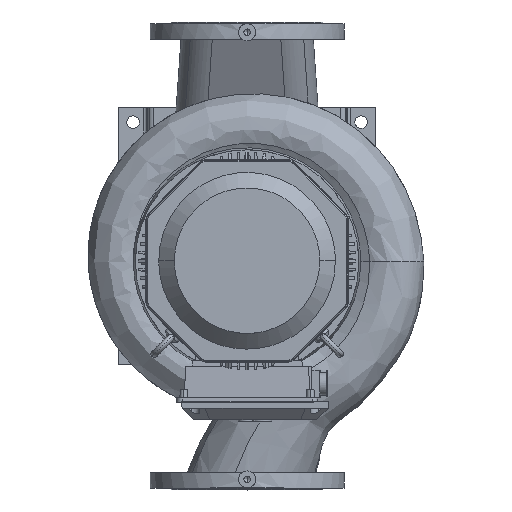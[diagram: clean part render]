
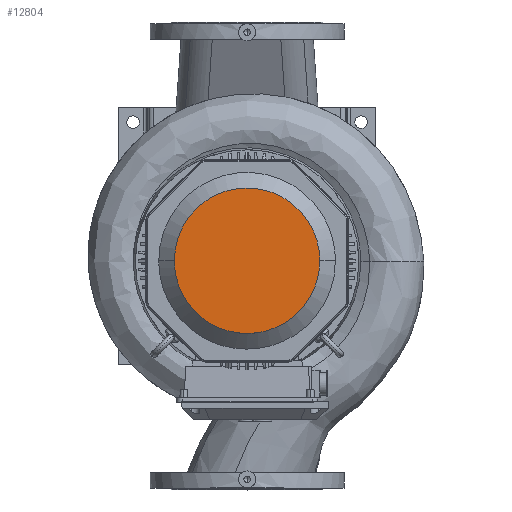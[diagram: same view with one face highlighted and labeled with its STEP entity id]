
A CAD part, top view. The second image highlights one B-rep face of the part: STEP entity #12804.
In plain terms, the highlighted free-form (B-spline) face has degree [1, 1] with [2, 2] control points.
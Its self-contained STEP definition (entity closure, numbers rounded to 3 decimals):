
#12804=ADVANCED_FACE('     F83',(#25700),#25701,.T.);
#12980=EDGE_CURVE('    E195',#25966,#25967,#25968,.T.);
#12984=EDGE_CURVE('    E195',#25967,#25966,#25972,.T.);
#25700=FACE_OUTER_BOUND('',#59579,.T.);
#25701=B_SPLINE_SURFACE_WITH_KNOTS('',1,1,((#59580,#59581),(#59582,#59583)),.UNSPECIFIED.,.F.,.F.,.F.,(2,2),(2,2),(0.044,0.955),(0.039,0.96),.UNSPECIFIED.);
#25966=VERTEX_POINT('',#61135);
#25967=VERTEX_POINT('',#61136);
#25968=(B_SPLINE_CURVE(2,(#61138,#61139,#61140,#61141,#61142),.UNSPECIFIED.,.F.,.F.)B_SPLINE_CURVE_WITH_KNOTS((3,2,3),(62.047,82.73,124.095),.UNSPECIFIED.)RATIONAL_B_SPLINE_CURVE((0.75,0.75,1.0,0.5,1.0))BOUNDED_CURVE()REPRESENTATION_ITEM('')GEOMETRIC_REPRESENTATION_ITEM()CURVE());
#25972=(B_SPLINE_CURVE(2,(#61156,#61157,#61158,#61159,#61160),.UNSPECIFIED.,.F.,.F.)B_SPLINE_CURVE_WITH_KNOTS((3,2,3),(0.0,41.365,62.047),.UNSPECIFIED.)RATIONAL_B_SPLINE_CURVE((1.0,0.5,1.0,0.75,0.75))BOUNDED_CURVE()REPRESENTATION_ITEM('')GEOMETRIC_REPRESENTATION_ITEM()CURVE());
#59579=EDGE_LOOP('',(#80112,#80113));
#59580=CARTESIAN_POINT('',(-148.051,129.131,-177.0));
#59581=CARTESIAN_POINT('',(-148.051,-126.525,-177.0));
#59582=CARTESIAN_POINT('',(107.447,129.131,-177.0));
#59583=CARTESIAN_POINT('',(107.447,-126.525,-177.0));
#61135=CARTESIAN_POINT('',(-147.622,1.096,-177.0));
#61136=CARTESIAN_POINT('',(107.438,1.096,-177.0));
#61138=CARTESIAN_POINT('',(-147.622,1.096,-177.0));
#61139=CARTESIAN_POINT('',(-147.622,-72.533,-177.0));
#61140=CARTESIAN_POINT('',(-83.857,-109.348,-177.0));
#61141=CARTESIAN_POINT('',(107.438,-219.792,-177.0));
#61142=CARTESIAN_POINT('',(107.438,1.096,-177.0));
#61156=CARTESIAN_POINT('',(107.438,1.096,-177.0));
#61157=CARTESIAN_POINT('',(107.438,221.985,-177.0));
#61158=CARTESIAN_POINT('',(-83.857,111.541,-177.0));
#61159=CARTESIAN_POINT('',(-147.622,74.726,-177.0));
#61160=CARTESIAN_POINT('',(-147.622,1.096,-177.0));
#80112=ORIENTED_EDGE('',*,*,#12984,.F.);
#80113=ORIENTED_EDGE('',*,*,#12980,.F.);
